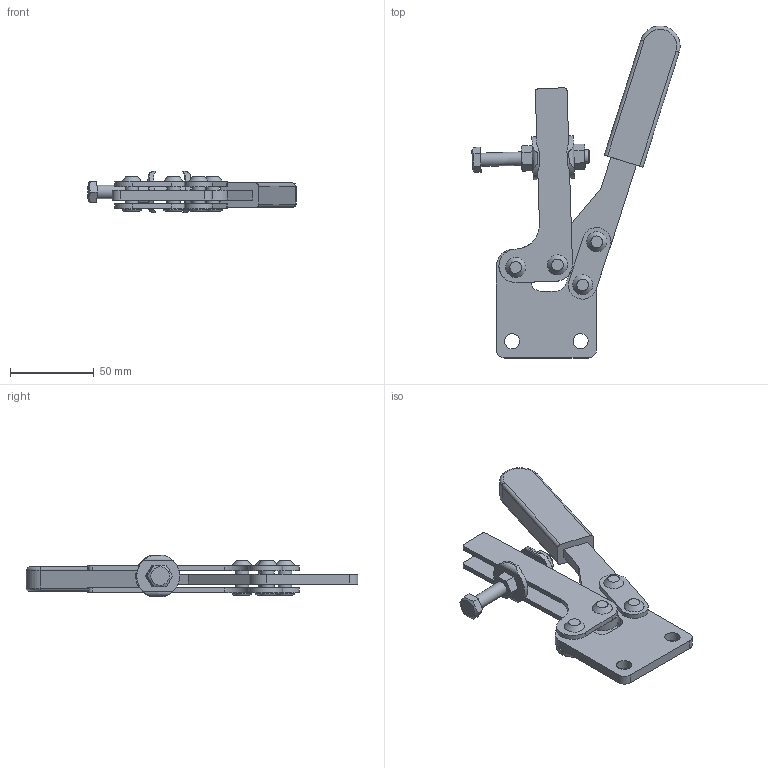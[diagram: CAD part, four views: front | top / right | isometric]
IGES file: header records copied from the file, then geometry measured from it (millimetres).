
Global section: file name: No.43B (ul); native system: Autodesk Inventor 2020; preprocessor: unknown; author: y-takahashi; date: 20211203.100020; units: millimetre
Bounding box: 124.49 x 198.52 x 24.6 mm (x, y, z)
Volume: 84475 mm3; surface area: 49021.2 mm2
Topology: 16 solids, 16 shells, 215 faces, 518 edges, 349 vertices
Faces by surface type: bspline 215
